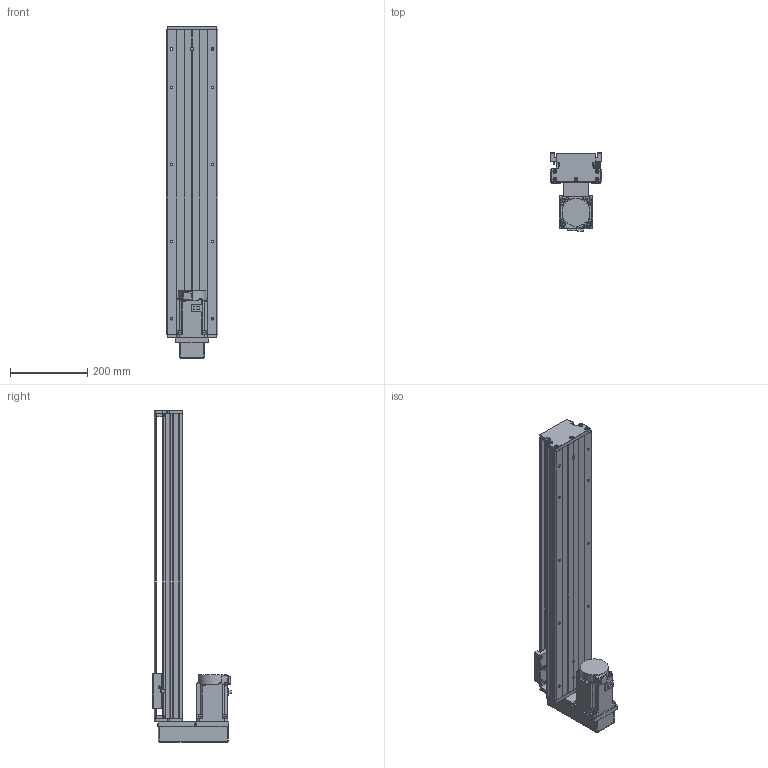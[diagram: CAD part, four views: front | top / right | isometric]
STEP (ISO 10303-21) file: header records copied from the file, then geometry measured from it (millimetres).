
FILE_DESCRIPTION (( 'STEP AP203' ), '1' );
FILE_NAME ('KTH130-650-BM-M75-C4.step', '2023-06-30T04:38:18', ( '微软用户' ), ( '微软中国' ), 'SwSTEP 2.0', 'SolidWorks 2020', '' );
FILE_SCHEMA (( 'CONFIG_CONTROL_DESIGN' ));
Length unit declared in the file: millimetre
Products named in the file (18): CTHA86-035; KTH130-005; GBT 70.1-M3℅5; KTH130-650-BM-M75-C4; GB1155-6X6; GBT77-2000 M3×3; GBT70.1 M5℅16; す晦芛蹟隊 M3℅5; GBT 70.2-M3¡Á5_M3¡Á6; GBT 70.3-M3℅8; GTH14-001_650; CTHA60-017; hg-kn73j_-s100; KTH130-002_KTH130-002; EE_SX911P_R; CTHA86-015-3_CTHA86-015-4; KTH130-004; CTHA60-016
Assembly tree (49 placements, depth 2):
  KTH130-650-BM-M75-C4
    GTH14-001_650
    KTH130-002_KTH130-002
    KTH130-004
    KTH130-005
    GB1155-6X6  x2
    GBT70.1 M5℅16  x10
    GBT 70.2-M3¡Á5_M3¡Á6  x4
    CTHA60-017  x3
    EE_SX911P_R  x3
    CTHA60-016  x2
    GBT 70.1-M3℅5  x6
    GBT77-2000 M3×3  x6
    す晦芛蹟隊 M3℅5  x2
    GBT 70.3-M3℅8  x4
    hg-kn73j_-s100
    CTHA86-015-3_CTHA86-015-4
    CTHA86-035
Bounding box: 135 x 202.8 x 862 mm (x, y, z)
Volume: 5720431.9 mm3; surface area: 824168.7 mm2
Topology: 52 solids, 52 shells, 2192 faces, 5316 edges, 3327 vertices
Faces by surface type: plane 1208, cylinder 630, cone 238, torus 100, sphere 16
Entity records: 39945 total; most frequent: CARTESIAN_POINT 6722, DIRECTION 6577, ORIENTED_EDGE 6136, EDGE_CURVE 3068, AXIS2_PLACEMENT_3D 2300, VECTOR 1977, LINE 1977, VERTEX_POINT 1961
